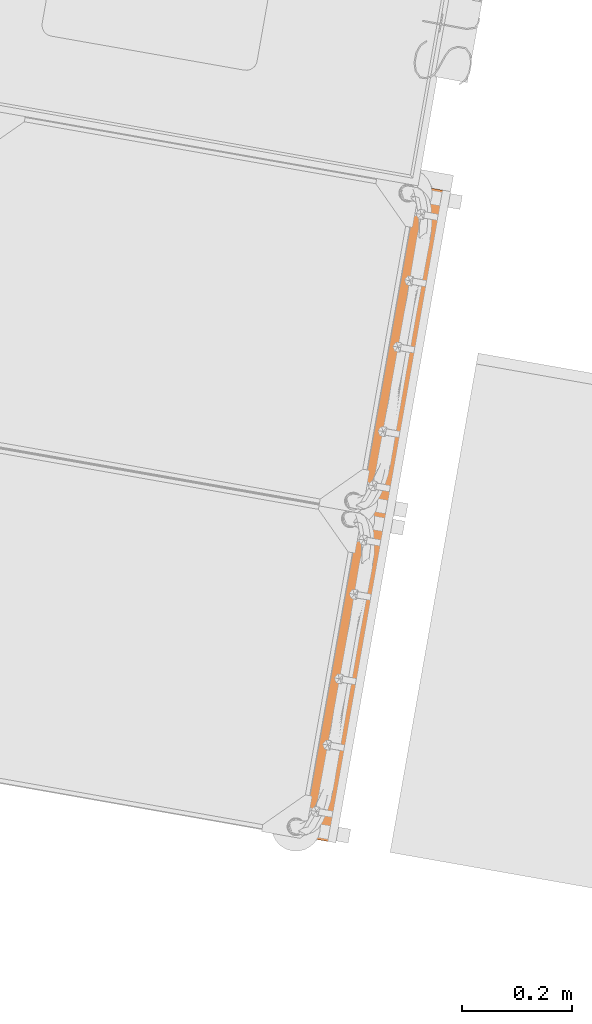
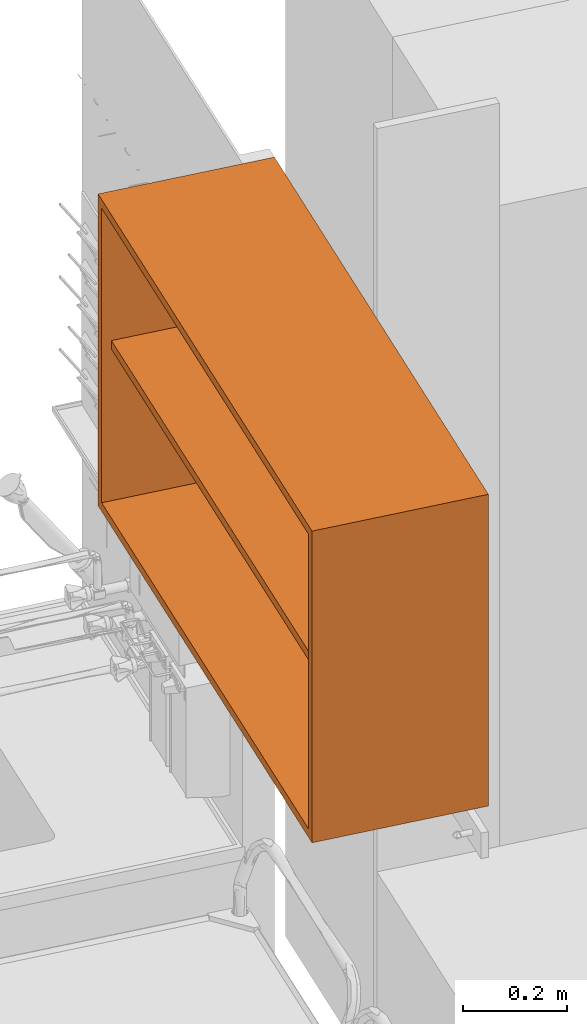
# One storey, part 28 of 32: 1 proxy.
"""IFC2X3 building model written with IfcOpenShell, lengths in metres."""

import ifcopenshell
import ifcopenshell.guid

model = None  # the IFC model being written
_history = None  # IfcOwnerHistory: only IFC2X3 demands one
_inside = {}  # id of a spatial element -> (the spatial element, [elements in it])
_under = {}  # id of a project, library or spatial element -> (it, [spatial elements below it])
_declared = {}  # id of a project -> (the project, [libraries it declares])
_typed = {}  # id of a type object -> (the type object, [elements of that type])
_made_of = {}  # id of a material, layer set ... -> (it, [elements and type objects made of it])


def new_model(schema):
    """Start an empty IFC model of exactly this schema.

    Asked for "IFC4X3", IfcOpenShell would pick the latest addendum, in which some entities
    have other attributes; the version numbers below select the first issue.
    IFC2X3 requires an IfcOwnerHistory on every rooted entity: one is made here for all.
    """
    global model, _history
    if schema == "IFC4X3":
        model = ifcopenshell.file(schema_version=(4, 3, 0, 0))
    else:
        model = ifcopenshell.file(schema=schema)
    _inside.clear()
    _under.clear()
    _declared.clear()
    _typed.clear()
    _made_of.clear()
    _history = None
    if model.schema == "IFC2X3":
        org = make("IfcOrganization", Name="unknown")
        user = make(
            "IfcPersonAndOrganization",
            ThePerson=make("IfcPerson", FamilyName="unknown"),
            TheOrganization=org,
        )
        app = make(
            "IfcApplication",
            ApplicationDeveloper=org,
            Version="unknown",
            ApplicationFullName="unknown",
            ApplicationIdentifier="unknown",
        )
        _history = make(
            "IfcOwnerHistory",
            OwningUser=user,
            OwningApplication=app,
            ChangeAction="ADDED",
            CreationDate=0,
        )
    return model


def make(cls, **values):
    """One entity of the class cls with the attributes given. An attribute that is None is left unset."""
    return model.create_entity(
        cls, **{name: value for name, value in values.items() if value is not None}
    )


def entity(cls, *values):
    """Any entity or typed value of the class cls, its attributes in the order of the schema. None: left unset."""
    e = model.create_entity(cls)
    for i, value in enumerate(values):
        if value is not None:
            e[i] = value
    return e


def rooted(cls, **values):
    """An entity with a GlobalId (a new one), such as an element, a storey or a relation."""
    return make(cls, GlobalId=ifcopenshell.guid.new(), OwnerHistory=_history, **values)


def si_unit(unit_type, name, prefix=None):
    """IfcSIUnit, for example si_unit("LENGTHUNIT", "METRE", prefix="MILLI")."""
    return make("IfcSIUnit", UnitType=unit_type, Prefix=prefix, Name=name)


def converted_unit(unit_type, name, factor, base, dimensions=None, offset=None):
    """IfcConversionBasedUnit, such as the inch: factor (a typed value) times the base unit."""
    return make(
        "IfcConversionBasedUnit"
        if offset is None
        else "IfcConversionBasedUnitWithOffset",
        ConversionOffset=offset,
        Dimensions=None
        if dimensions is None
        else entity("IfcDimensionalExponents", *dimensions),
        UnitType=unit_type,
        Name=name,
        ConversionFactor=make(
            "IfcMeasureWithUnit", ValueComponent=factor, UnitComponent=base
        ),
    )


def derived_unit(unit_type, elements):
    """IfcDerivedUnit: a product of units, each with its exponent."""
    return make(
        "IfcDerivedUnit",
        Elements=[
            make("IfcDerivedUnitElement", Unit=unit, Exponent=power)
            for unit, power in elements
        ],
        UnitType=unit_type,
    )


def assignment(units):
    """IfcUnitAssignment: the units of a project."""
    return None if units is None else make("IfcUnitAssignment", Units=units)


def point(xyz):
    """IfcCartesianPoint."""
    return None if xyz is None else make("IfcCartesianPoint", Coordinates=xyz)


def direction(xyz):
    """IfcDirection."""
    return None if xyz is None else make("IfcDirection", DirectionRatios=xyz)


def frame(location, z_axis=None, x_axis=None):
    """IfcAxis2Placement3D, a coordinate frame: its origin and axes. An axis left out is left unset."""
    return make(
        "IfcAxis2Placement3D",
        Location=point(location),
        Axis=direction(z_axis),
        RefDirection=direction(x_axis),
    )


def origin():
    """The frame at (0, 0, 0) with its axes left unset."""
    return frame((0.0, 0.0, 0.0))


def place(relative_to, where):
    """IfcLocalPlacement: puts the frame where relative to a parent placement (None: the world)."""
    return make(
        "IfcLocalPlacement", PlacementRelTo=relative_to, RelativePlacement=where
    )


def context(
    kind, dimensions, precision=None, world=None, true_north=None, identifier=None
):
    """IfcGeometricRepresentationContext, for example the 3D "Model" context."""
    return make(
        "IfcGeometricRepresentationContext",
        ContextIdentifier=identifier,
        ContextType=kind,
        CoordinateSpaceDimension=dimensions,
        Precision=precision,
        WorldCoordinateSystem=world,
        TrueNorth=true_north,
    )


def subcontext(parent, identifier, kind, view, scale=None):
    """IfcGeometricRepresentationSubContext, for example "Body" below "Model"."""
    return make(
        "IfcGeometricRepresentationSubContext",
        ContextIdentifier=identifier,
        ContextType=kind,
        ParentContext=parent,
        TargetScale=scale,
        TargetView=view,
    )


def project(units=None, contexts=None):
    """IfcProject with its units and contexts."""
    return rooted(
        "IfcProject",
        Name="project",
        RepresentationContexts=contexts,
        UnitsInContext=assignment(units),
    )


def spatial(cls, under=None, at=None, **own):
    """A site, building, storey or space (cls), placed at a placement, below another one or the project."""
    s = rooted(cls, ObjectPlacement=at, **own)
    if under is not None:
        _under.setdefault(under.id(), (under, []))[1].append(s)
    return s


def faces_of(points, faces, orient=None, outer=None):
    """IfcFace entities. A face is a list of loops; a loop is a list of indices into points, from 0.

    orient and outer hold one flag for each loop. By default every Orientation is true, the
    first loop of a face is its IfcFaceOuterBound and the others are IfcFaceBound.
    """
    made = []
    for i, loops in enumerate(faces):
        bounds = []
        for j, loop in enumerate(loops):
            is_outer = j == 0 if outer is None else outer[i][j]
            bounds.append(
                make(
                    "IfcFaceOuterBound" if is_outer else "IfcFaceBound",
                    Bound=make("IfcPolyLoop", Polygon=[points[k] for k in loop]),
                    Orientation=True if orient is None else orient[i][j],
                )
            )
        made.append(make("IfcFace", Bounds=bounds))
    return made


def faceted_brep(points, faces, orient=None, outer=None, voids=None):
    """IfcFacetedBrep: a solid bounded by flat faces; with voids (closed shells), ...WithVoids."""
    shared = [point(p) for p in points]
    hull = make("IfcClosedShell", CfsFaces=faces_of(shared, faces, orient, outer))
    if voids is None:
        return make("IfcFacetedBrep", Outer=hull)
    return make(
        "IfcFacetedBrepWithVoids",
        Outer=hull,
        Voids=[
            make(cls, CfsFaces=faces_of(shared, fs, o, b)) for cls, fs, o, b in voids
        ],
    )


def shape(context_of_items, identifier, shape_type, items):
    """IfcShapeRepresentation: the items that make up one representation, for example the "Body"."""
    return make(
        "IfcShapeRepresentation",
        ContextOfItems=context_of_items,
        RepresentationIdentifier=identifier,
        RepresentationType=shape_type,
        Items=items,
    )


def source(mapping_origin, context_of_items, identifier, shape_type, items):
    """IfcRepresentationMap: a shape defined once, which mapped items show again and again."""
    return make(
        "IfcRepresentationMap",
        MappingOrigin=mapping_origin,
        MappedRepresentation=shape(context_of_items, identifier, shape_type, items),
    )


def transform(
    local_origin,
    x_axis=None,
    y_axis=None,
    z_axis=None,
    scale=None,
    scale2=None,
    scale3=None,
    uniform=True,
):
    """IfcCartesianTransformationOperator3D, or its non-uniform kind. x_axis, y_axis, z_axis: its Axis1, 2, 3."""
    if uniform:
        return make(
            "IfcCartesianTransformationOperator3D",
            Axis1=direction(x_axis),
            Axis2=direction(y_axis),
            LocalOrigin=point(local_origin),
            Scale=scale,
            Axis3=direction(z_axis),
        )
    return make(
        "IfcCartesianTransformationOperator3DnonUniform",
        Axis1=direction(x_axis),
        Axis2=direction(y_axis),
        LocalOrigin=point(local_origin),
        Scale=scale,
        Axis3=direction(z_axis),
        Scale2=scale2,
        Scale3=scale3,
    )


def mapped(mapping_source, mapping_target):
    """IfcMappedItem: shows the shape of a source again, moved by a transform."""
    return make(
        "IfcMappedItem", MappingSource=mapping_source, MappingTarget=mapping_target
    )


def material(Name=None, Category=None):
    """IfcMaterial."""
    return make("IfcMaterial", Name=Name, Category=Category)


def made_of(thing, what):
    """Note that an element or type object is made of a material, layer set ...; save() writes the relation."""
    if what is not None:
        _made_of.setdefault(what.id(), (what, []))[1].append(thing)
    return thing


def type_object(cls, material=None, **own):
    """A type object (cls), such as IfcWallType, which elements share."""
    return made_of(rooted(cls, **own), material)


def type_shapes(of_type, sources):
    """Give a type object the sources (RepresentationMaps) that its elements show as mapped items."""
    of_type.RepresentationMaps = sources


def element(
    cls,
    number,
    at=None,
    inside=None,
    cuts=None,
    type_object=None,
    material=None,
    context=None,
    identifier="Body",
    shape_type=None,
    held_by="IfcProductDefinitionShape",
    body=None,
    shapes=None,
    **own,
):
    """One element of the class cls, such as IfcWall. Its Tag is "e" and its number.

    at: its placement. inside: the storey or other place that contains it. cuts: it is an
    opening in that element (IfcRelVoidsElement). A single representation is given by context,
    identifier, shape_type and body (its items); several are given by shapes. held_by: the class
    of the entity that holds the representations. save() writes the other relations.
    """
    e = rooted(cls, Tag="e%d" % number, ObjectPlacement=at, **own)
    if body is not None:
        shapes = [shape(context, identifier, shape_type, body)]
    if shapes is not None:
        e.Representation = make(held_by, Representations=shapes)
    if inside is not None:
        _inside.setdefault(inside.id(), (inside, []))[1].append(e)
    if cuts is not None:
        rooted(
            "IfcRelVoidsElement", RelatingBuildingElement=cuts, RelatedOpeningElement=e
        )
    if type_object is not None:
        _typed.setdefault(type_object.id(), (type_object, []))[1].append(e)
    return made_of(e, material)


def aggregate(whole, parts):
    """IfcRelAggregates: a whole, such as a stair, and the parts it consists of."""
    return rooted("IfcRelAggregates", RelatingObject=whole, RelatedObjects=parts)


def save(model, path):
    """Write the relations noted so far, then the file.

    IfcRelAggregates (storeys below a building ...), IfcRelContainedInSpatialStructure (elements
    in a storey), IfcRelDefinesByType, IfcRelAssociatesMaterial and IfcRelDeclares: one each for
    every whole, place, type object, material and project.
    """
    for whole, parts in _under.values():
        aggregate(whole, parts)
    for where, things in _inside.values():
        rooted(
            "IfcRelContainedInSpatialStructure",
            RelatedElements=things,
            RelatingStructure=where,
        )
    for kind, things in _typed.values():
        rooted("IfcRelDefinesByType", RelatedObjects=things, RelatingType=kind)
    for what, things in _made_of.values():
        rooted("IfcRelAssociatesMaterial", RelatedObjects=things, RelatingMaterial=what)
    for by, libraries in _declared.values():
        rooted("IfcRelDeclares", RelatingContext=by, RelatedDefinitions=libraries)
    model.write(path)


model = new_model("IFC2X3")

# Units and contexts
model_context = context("Model", 3, precision=1e-05, world=origin(), true_north=direction((6.12303176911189e-17, 1.0)))
body_context = subcontext(model_context, "Body", "Model", "MODEL_VIEW")
ifc_project = project(units=[si_unit("LENGTHUNIT", "METRE"), si_unit("AREAUNIT", "SQUARE_METRE"), si_unit("VOLUMEUNIT", "CUBIC_METRE"), converted_unit("PLANEANGLEUNIT", "DEGREE", entity("IfcRatioMeasure", 0.0174532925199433), si_unit("PLANEANGLEUNIT", "RADIAN"), dimensions=[0, 0, 0, 0, 0, 0, 0]), si_unit("MASSUNIT", "GRAM", prefix="KILO"), derived_unit("MASSDENSITYUNIT", [(si_unit("MASSUNIT", "GRAM", prefix="KILO"), 1), (si_unit("LENGTHUNIT", "METRE"), -3)]), derived_unit("MOMENTOFINERTIAUNIT", [(si_unit("LENGTHUNIT", "METRE"), 4)]), si_unit("TIMEUNIT", "SECOND"), si_unit("FREQUENCYUNIT", "HERTZ"), si_unit("THERMODYNAMICTEMPERATUREUNIT", "DEGREE_CELSIUS"), derived_unit("THERMALTRANSMITTANCEUNIT", [(si_unit("MASSUNIT", "GRAM", prefix="KILO"), 1), (si_unit("THERMODYNAMICTEMPERATUREUNIT", "KELVIN"), -1), (si_unit("TIMEUNIT", "SECOND"), -3)]), derived_unit("VOLUMETRICFLOWRATEUNIT", [(si_unit("LENGTHUNIT", "METRE"), 3), (si_unit("TIMEUNIT", "SECOND"), -1)]), si_unit("ELECTRICCURRENTUNIT", "AMPERE"), si_unit("ELECTRICVOLTAGEUNIT", "VOLT"), si_unit("POWERUNIT", "WATT"), si_unit("FORCEUNIT", "NEWTON", prefix="KILO"), si_unit("ILLUMINANCEUNIT", "LUX"), si_unit("LUMINOUSFLUXUNIT", "LUMEN"), si_unit("LUMINOUSINTENSITYUNIT", "CANDELA"), derived_unit("USERDEFINED", [(si_unit("MASSUNIT", "GRAM", prefix="KILO"), -1), (si_unit("LENGTHUNIT", "METRE"), -2), (si_unit("TIMEUNIT", "SECOND"), 3), (si_unit("LUMINOUSFLUXUNIT", "LUMEN"), 1)]), derived_unit("LINEARVELOCITYUNIT", [(si_unit("LENGTHUNIT", "METRE"), 1), (si_unit("TIMEUNIT", "SECOND"), -1)]), si_unit("PRESSUREUNIT", "PASCAL"), derived_unit("USERDEFINED", [(si_unit("LENGTHUNIT", "METRE"), -2), (si_unit("MASSUNIT", "GRAM", prefix="KILO"), 1), (si_unit("TIMEUNIT", "SECOND"), -2)]), derived_unit("LINEARFORCEUNIT", [(si_unit("MASSUNIT", "GRAM", prefix="KILO"), 1), (si_unit("LENGTHUNIT", "METRE"), 1), (si_unit("TIMEUNIT", "SECOND"), -2), (si_unit("LENGTHUNIT", "METRE"), -1)]), derived_unit("PLANARFORCEUNIT", [(si_unit("MASSUNIT", "GRAM", prefix="KILO"), 1), (si_unit("LENGTHUNIT", "METRE"), 1), (si_unit("TIMEUNIT", "SECOND"), -2), (si_unit("LENGTHUNIT", "METRE"), -2)])], contexts=[model_context])

# Site, building, storey
site_placement = place(None, origin())
site = spatial("IfcSite", under=ifc_project, at=site_placement, Name="Default", CompositionType="ELEMENT")
building_placement = place(site_placement, origin())
building = spatial("IfcBuilding", under=site, at=building_placement, CompositionType="ELEMENT")
storey_placement = place(building_placement, origin())
storey = spatial("IfcBuildingStorey", under=building, at=storey_placement, Name="00 EG", CompositionType="ELEMENT", Elevation=0.0)

# Proxy
ifc_material = material(Name="dh_Weiß")
building_element_proxy_type = type_object("IfcBuildingElementProxyType", Name="dh_Wandhängeregal:WHR", PredefinedType="NOTDEFINED", material=ifc_material)
shared_shape = source(origin(), body_context, "Body", "Brep", [
    faceted_brep([(1.18000000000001, 0.340000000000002, 0.395000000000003), (1.18000000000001, 0.340000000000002, 0.374999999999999), (0.0200000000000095, 0.340000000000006, 0.374999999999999), (0.0200000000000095, 0.340000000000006, 0.395000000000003), (1.18000000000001, 0.0200000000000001, 0.395000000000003), (0.0200000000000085, 0.0200000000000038, 0.395000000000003), (0.0200000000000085, 0.0200000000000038, 0.374999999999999), (1.18000000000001, 0.0200000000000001, 0.374999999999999)], [[[0, 1, 2, 3]], [[4, 5, 6, 7]], [[1, 0, 4, 7]], [[2, 1, 7, 6]], [[3, 2, 6, 5]], [[0, 3, 5, 4]]]),
    faceted_brep([(1.2, 0.360000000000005, 0.729999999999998), (0.0, 0.360000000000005, 0.730000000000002), (0.0, 0.0, 0.730000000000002), (1.2, 0.0, 0.729999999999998), (1.2, 0.360000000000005, 0.0), (1.2, 0.0, 0.0), (0.0, 0.0, 0.0), (0.0, 0.360000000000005, 0.0), (1.18000000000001, 0.0, 0.710000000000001), (1.18000000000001, 0.0, 0.0200000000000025), (0.0200000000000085, 0.0, 0.0199999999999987), (0.020000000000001, 0.0, 0.710000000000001), (1.18000000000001, 0.34, 0.710000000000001), (0.020000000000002, 0.340000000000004, 0.710000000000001), (0.0200000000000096, 0.340000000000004, 0.0199999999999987), (1.18000000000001, 0.34, 0.0200000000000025)], [[[0, 1, 2, 3]], [[4, 5, 6, 7]], [[1, 0, 4, 7]], [[2, 1, 7, 6]], [[3, 2, 6, 5], [8, 9, 10, 11]], [[0, 3, 5, 4]], [[12, 13, 14, 15]], [[12, 15, 9, 8]], [[15, 14, 10, 9]], [[14, 13, 11, 10]], [[13, 12, 8, 11]]]),
])
type_shapes(building_element_proxy_type, [shared_shape])
proxy_placement = place(storey_placement, frame((27.0386087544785, 17.7208750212, 1.77), z_axis=(0.0, 0.0, 1.0), x_axis=(-0.173648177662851, -0.984807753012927, 0.0)))
element("IfcBuildingElementProxy", 1, at=proxy_placement, inside=storey, type_object=building_element_proxy_type, material=ifc_material, Name="dh_Wandhängeregal:WHR", ObjectType="dh_Wandhängeregal:WHR", context=body_context, shape_type="MappedRepresentation", body=[
    mapped(shared_shape, transform((0.0, 0.0, 0.0), scale=1.0)),
])

save(model, "model.ifc")
